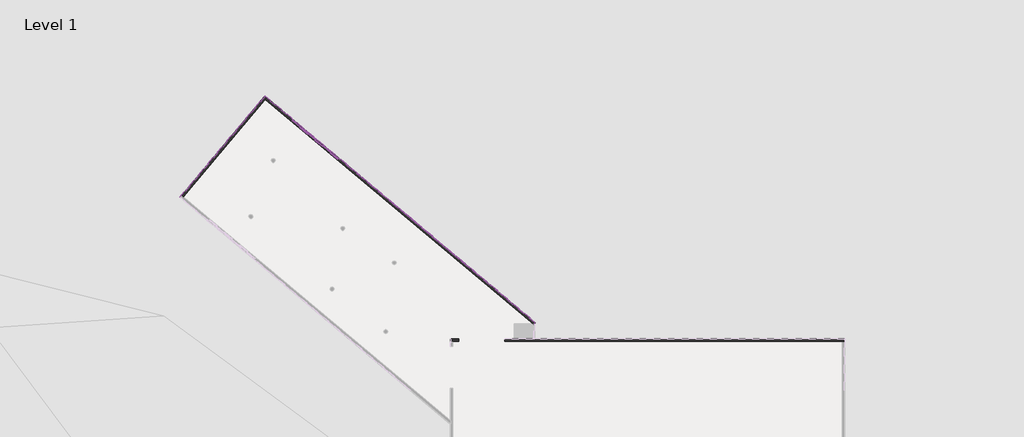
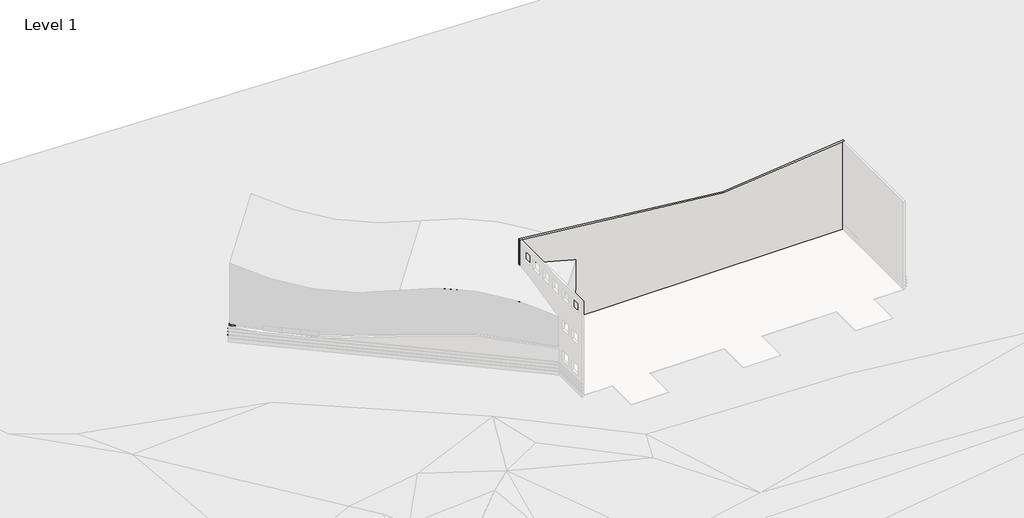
# One storey, part 5 of 6: 6 members, 6 proxies, 3 plates, 3 walls.
"""IFC4 building model written with IfcOpenShell, lengths in millimetres."""

from ifc_helpers import new_model, si_unit, frame, origin, place, context, project, spatial, polyline, circle_curve, outline, extrude, transform, mapped, element, save
from ifc_brep_helpers import plane_surface, cylinder_surface, revolved_surface, advanced_brep
from components import member_1b704979, member_05e2fa80, member_05617f10, member_ef7c23ca, member_8b387e88, member_d205cb55, system_panel_glazed_7171d723, system_panel_glazed_2610bdc1, system_panel_glazed_ed74df88

model = new_model("IFC4")

# Units and contexts
model_context = context("Model", 3, world=origin())
ifc_project = project(units=[si_unit("LENGTHUNIT", "METRE", prefix="MILLI")], contexts=[model_context])

# Site, building, storey
site = spatial("IfcSite", under=ifc_project)
building = spatial("IfcBuilding", under=site)
storey = spatial("IfcBuildingStorey", under=building, Name="Level 1", Elevation=0.0)

# Proxies
placement = place(None, origin())
element("IfcBuildingElementProxy", 1, Name="Reveals", at=placement, inside=storey, context=model_context, shape_type="SweptSolid", body=[
    extrude(outline(polyline([(-46445.5813862, 47903.6855684), (-46434.2325133, 47773.9673571), (-59341.5925172, 32391.5747015), (-59471.3107285, 32380.2258286), (-46445.5813862, 47903.6855684)])), frame((0.0, 0.0, 1625.6), z_axis=(0.0, 0.0, 1.0), x_axis=(1.0, 0.0, 0.0)), (0.0, 0.0, 1.0), 67.7333333),
])
element("IfcBuildingElementProxy", 2, Name="Reveals", at=placement, inside=storey, context=model_context, shape_type="SweptSolid", body=[
    extrude(outline(polyline([(-46445.5813862, 47903.6855684), (-46434.2325133, 47773.9673571), (-59341.5925172, 32391.5747015), (-59471.3107285, 32380.2258286), (-46445.5813862, 47903.6855684)])), frame((0.0, 0.0, 2235.2), z_axis=(0.0, 0.0, 1.0), x_axis=(1.0, 0.0, 0.0)), (0.0, 0.0, 1.0), 67.7333333),
])
element("IfcBuildingElementProxy", 3, Name="Reveals", at=placement, inside=storey, context=model_context, shape_type="SweptSolid", body=[
    extrude(outline(polyline([(-46445.5813862, 47903.6855684), (-46434.2325133, 47773.9673571), (-59341.5925172, 32391.5747015), (-59471.3107285, 32380.2258286), (-46445.5813862, 47903.6855684)])), frame((0.0, 0.0, 2844.8), z_axis=(0.0, 0.0, 1.0), x_axis=(1.0, 0.0, 0.0)), (0.0, 0.0, 1.0), 67.7333333),
])
element("IfcBuildingElementProxy", 4, Name="Reveals", at=placement, inside=storey, context=model_context, shape_type="SweptSolid", body=[
    extrude(outline(polyline([(-5173.5363188, 13272.3277744), (-5232.720988, 13201.7942323), (-46434.2325133, 47773.9673571), (-46445.5813862, 47903.6855684), (-5173.5363188, 13272.3277744)])), frame((0.0, 0.0, 1625.6), z_axis=(0.0, 0.0, 1.0), x_axis=(1.0, 0.0, 0.0)), (0.0, 0.0, 1.0), 67.7333333),
])
element("IfcBuildingElementProxy", 5, Name="Reveals", at=placement, inside=storey, context=model_context, shape_type="SweptSolid", body=[
    extrude(outline(polyline([(-5173.5363188, 13272.3277744), (-5232.720988, 13201.7942323), (-46434.2325133, 47773.9673571), (-46445.5813862, 47903.6855684), (-5173.5363188, 13272.3277744)])), frame((0.0, 0.0, 2235.2), z_axis=(0.0, 0.0, 1.0), x_axis=(1.0, 0.0, 0.0)), (0.0, 0.0, 1.0), 67.7333333),
])
element("IfcBuildingElementProxy", 6, Name="Reveals", at=placement, inside=storey, context=model_context, shape_type="SweptSolid", body=[
    extrude(outline(polyline([(-42842.4327103, 44880.2848433), (-42901.6173795, 44809.7513012), (-46434.2325133, 47773.9673571), (-46445.5813862, 47903.6855684), (-42842.4327103, 44880.2848433)])), frame((0.0, 0.0, 2844.8), z_axis=(0.0, 0.0, 1.0), x_axis=(1.0, 0.0, 0.0)), (0.0, 0.0, 1.0), 67.7333333),
    extrude(outline(polyline([(-5173.5363188, 13272.3277744), (-5232.720988, 13201.7942323), (-34671.1313339, 37903.553496), (-34611.9466648, 37974.0870381), (-5173.5363188, 13272.3277744)])), frame((0.0, 0.0, 2844.8), z_axis=(0.0, 0.0, 1.0), x_axis=(1.0, 0.0, 0.0)), (0.0, 0.0, 1.0), 67.7333333),
])

# Members
member_shape = member_1b704979(model_context)
element("IfcMember", 7, ObjectType="Rectangular Mullion : 1.5\" x 2.5\" rectangular", at=placement, inside=storey, context=model_context, shape_type="MappedRepresentation", body=[
    mapped(member_shape, transform((-5348.7113943, 13077.3819938, 2133.6), x_axis=(0.0, 1.0, 0.0), y_axis=(1.0, 0.0, 0.0), z_axis=(0.0, 0.0, -1.0))),
])
member_2_shape = member_05e2fa80(model_context)
element("IfcMember", 8, ObjectType="Rectangular Mullion : 1.5\" x 2.5\" rectangular", at=placement, inside=storey, context=model_context, shape_type="MappedRepresentation", body=[
    mapped(member_2_shape, transform((-39936.3435125, 42099.8513475, 3999.9444177), x_axis=(0.76604444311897, -0.6427876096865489, 0.0), y_axis=(0.6427876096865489, 0.76604444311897, 0.0), z_axis=(0.0, 0.0, 1.0))),
])
member_3_shape = member_05617f10(model_context)
element("IfcMember", 9, ObjectType="Rectangular Mullion : 1.5\" x 2.5\" rectangular", at=placement, inside=storey, context=model_context, shape_type="MappedRepresentation", body=[
    mapped(member_3_shape, transform((-37601.4400499, 40140.6347131, 3999.9444177), x_axis=(0.76604444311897, -0.6427876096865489, 0.0), y_axis=(0.6427876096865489, 0.76604444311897, 0.0), z_axis=(0.0, 0.0, 1.0))),
])
member_4_shape = member_ef7c23ca(model_context)
element("IfcMember", 10, ObjectType="Rectangular Mullion : 2.5\" x 5\" rectangular", at=placement, inside=storey, context=model_context, shape_type="MappedRepresentation", body=[
    mapped(member_4_shape, transform((-39936.3435125, 42099.8513475, 2976.7419473), x_axis=(-0.028349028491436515, 0.023787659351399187, -0.999315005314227), y_axis=(0.6427876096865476, 0.7660444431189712, 0.0), z_axis=(0.7655197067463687, -0.6423473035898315, -0.03700702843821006))),
])
member_5_shape = member_8b387e88(model_context)
element("IfcMember", 11, ObjectType="Rectangular Mullion : 2.5\" x 5\" rectangular", at=placement, inside=storey, context=model_context, shape_type="MappedRepresentation", body=[
    mapped(member_5_shape, transform((-37601.4400499, 40140.6347131, 2983.2122183), x_axis=(0.0016261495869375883, -0.0013645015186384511, -0.9999977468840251), y_axis=(0.6427876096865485, 0.7660444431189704, 0.0), z_axis=(0.766042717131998, -0.6427861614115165, 0.0021227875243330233))),
])
member_6_shape = member_d205cb55(model_context)
element("IfcMember", 12, ObjectType="Rectangular Mullion : 2.5\" x 5\" rectangular", at=placement, inside=storey, context=model_context, shape_type="MappedRepresentation", body=[
    mapped(member_6_shape, transform((-35266.5365873, 38181.4180788, 3109.0572912), x_axis=(0.03160133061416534, -0.0265166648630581, -0.9991487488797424), y_axis=(0.6427876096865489, 0.76604444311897, 0.0), z_axis=(0.7653923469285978, -0.6422404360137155, 0.04125260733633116))),
])

# Plates
system_panel_glazed_shape = system_panel_glazed_7171d723(model_context)
element("IfcPlate", 13, ObjectType="System Panel : Glazed", at=placement, inside=storey, context=model_context, shape_type="MappedRepresentation", body=[
    mapped(system_panel_glazed_shape, transform((-41103.7952438, 43079.4596646, 3040.9909414), x_axis=(0.76604444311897, -0.6427876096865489, 0.0), y_axis=(0.6427876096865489, 0.76604444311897, 0.0), z_axis=(0.0, 0.0, 1.0))),
])
system_panel_glazed_2_shape = system_panel_glazed_2610bdc1(model_context)
element("IfcPlate", 14, ObjectType="System Panel : Glazed", at=placement, inside=storey, context=model_context, shape_type="MappedRepresentation", body=[
    mapped(system_panel_glazed_2_shape, transform((-38768.8917812, 41120.2430303, 3040.2825296), x_axis=(0.76604444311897, -0.6427876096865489, 0.0), y_axis=(0.6427876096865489, 0.76604444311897, 0.0), z_axis=(0.0, 0.0, 1.0))),
])
system_panel_glazed_3_shape = system_panel_glazed_ed74df88(model_context)
element("IfcPlate", 15, ObjectType="System Panel : Glazed", at=placement, inside=storey, context=model_context, shape_type="MappedRepresentation", body=[
    mapped(system_panel_glazed_3_shape, transform((-36433.9883186, 39161.026396, 3047.5528505), x_axis=(0.76604444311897, -0.6427876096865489, 0.0), y_axis=(0.6427876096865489, 0.76604444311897, 0.0), z_axis=(0.0, 0.0, 1.0))),
])

# Walls
element("IfcWall", 16, ObjectType="Exterior - Brick and CMU on MTL. Stud", at=placement, inside=storey, context=model_context, shape_type="AdvancedBrep", body=[
    advanced_brep(
    [(-16886.5261573, 10382.0370607, 5486.4), (-9876.1261573, 10382.0370607, 5486.4), (-9876.1261573, 10382.0370607, 304.8), (41611.2613427, 10382.0370607, 304.8), (41623.9613427, 10382.0370607, 304.8), (41623.9613427, 10382.0370607, 0.0), (41963.6863427, 10382.0370607, 0.0), (41963.6863427, 10382.0370607, 1016.0), (41871.6113427, 10382.0370607, 1016.0), (41871.6113427, 10382.0370607, 1085.85), (41963.6863427, 10382.0370607, 1085.85), (41963.6863427, 10382.0370607, 1625.6), (41938.2863427, 10382.0370607, 1625.6), (41938.2863427, 10382.0370607, 1693.3333333), (41963.6863427, 10382.0370607, 1693.3333333), (41963.6863427, 10382.0370607, 2235.2), (41938.2863427, 10382.0370607, 2235.2), (41938.2863427, 10382.0370607, 2302.9333333), (41963.6863427, 10382.0370607, 2302.9333333), (41963.6863427, 10382.0370607, 2844.8), (41938.2863427, 10382.0370607, 2844.8), (41938.2863427, 10382.0370607, 2912.5333333), (41963.6863427, 10382.0370607, 2912.5333333), (41963.6863427, 10382.0370607, 17465.9162072), (41611.2613427, 10382.0370607, 17428.8748471), (19653.3535836, 10382.0370607, 15121.0057441), (-17777.1136573, 10382.0370607, 19055.1063791), (-18129.5386573, 10382.0370607, 19092.1477392), (-18129.5386573, 10382.0370607, 3048.0), (-17789.8136573, 10382.0370607, 3048.0), (-17789.8136573, 10382.0370607, 2943.225), (-18129.5386573, 10382.0370607, 2943.225), (-18129.5386573, 10382.0370607, 2912.5333333), (-18104.1386573, 10382.0370607, 2912.5333333), (-18104.1386573, 10382.0370607, 2844.8), (-18129.5386573, 10382.0370607, 2844.8), (-18129.5386573, 10382.0370607, 2302.9333333), (-18104.1386573, 10382.0370607, 2302.9333333), (-18104.1386573, 10382.0370607, 2235.2), (-18129.5386573, 10382.0370607, 2235.2), (-18129.5386573, 10382.0370607, 1693.3333333), (-18104.1386573, 10382.0370607, 1693.3333333), (-18104.1386573, 10382.0370607, 1625.6), (-18129.5386573, 10382.0370607, 1625.6), (-18129.5386573, 10382.0370607, 1085.85), (-18037.4636573, 10382.0370607, 1085.85), (-18037.4636573, 10382.0370607, 1016.0), (-18129.5386573, 10382.0370607, 1016.0), (-18129.5386573, 10382.0370607, 304.8), (-17777.1136573, 10382.0370607, 304.8), (-16886.5261573, 10382.0370607, 304.8), (-16557.0569927, 10382.0370607, 11582.4), (-10638.1261573, 10382.0370607, 11582.4), (-10638.1261573, 10382.0370607, 9144.0), (-16557.0569927, 10382.0370607, 9144.0), (-9876.1261573, 10734.4620607, 5486.4), (-16886.5261573, 10734.4620607, 5486.4), (-16886.5261573, 10734.4620607, 3048.0), (-18129.5386573, 10734.4620607, 3048.0), (-18129.5386573, 10734.4620607, 19092.1477392), (19653.3535836, 10734.4620607, 15121.0057441), (41963.6863427, 10734.4620607, 17465.9162072), (41963.6863427, 10734.4620607, 2912.5333333), (-9876.1261573, 10734.4620607, 2912.5333333), (-9876.1261573, 10734.4620607, 2943.225), (-9763.8622929, 10734.4620607, 2943.225), (-9763.8622929, 10734.4620607, 3048.0), (-9876.1261573, 10734.4620607, 3048.0), (-10638.1261573, 10734.4620607, 11582.4), (-16557.0569927, 10734.4620607, 11582.4), (-16557.0569927, 10734.4620607, 9144.0), (-10638.1261573, 10734.4620607, 9144.0), (41963.6863427, 10734.4620607, 1693.3333333), (-9876.1261573, 10734.4620607, 1693.3333333), (-9876.1261573, 10734.4620607, 2235.2), (41963.6863427, 10734.4620607, 2235.2), (-9876.1261573, 10734.4620607, 1625.6), (41963.6863427, 10734.4620607, 1625.6), (41963.6863427, 10734.4620607, 1085.85), (-9876.1261573, 10734.4620607, 1085.85), (-16886.5261573, 10734.4620607, 1693.3333333), (-18129.5386573, 10734.4620607, 1693.3333333), (-18129.5386573, 10734.4620607, 2235.2), (-16886.5261573, 10734.4620607, 2235.2), (-18129.5386573, 10734.4620607, 1625.6), (-16886.5261573, 10734.4620607, 1625.6), (-16886.5261573, 10734.4620607, 1085.85), (-18129.5386573, 10734.4620607, 1085.85), (41963.6863427, 10734.4620607, 2302.9333333), (-9876.1261573, 10734.4620607, 2302.9333333), (-9876.1261573, 10734.4620607, 2844.8), (41963.6863427, 10734.4620607, 2844.8), (-16886.5261573, 10734.4620607, 2302.9333333), (-18129.5386573, 10734.4620607, 2302.9333333), (-18129.5386573, 10734.4620607, 2844.8), (-16886.5261573, 10734.4620607, 2844.8), (-16886.5261573, 10734.4620607, 2912.5333333), (-18129.5386573, 10734.4620607, 2912.5333333), (-18129.5386573, 10734.4620607, 2943.225), (-16886.5261573, 10734.4620607, 2943.225), (41963.6863427, 10734.4620607, 1016.0), (41963.6863427, 10734.4620607, 0.0), (-5329.6613943, 10734.4620607, 0.0), (-5329.6613943, 10734.4620607, 304.8), (-9876.1261573, 10734.4620607, 304.8), (-9876.1261573, 10734.4620607, 1016.0), (-18129.5386573, 10734.4620607, 1016.0), (-16886.5261573, 10734.4620607, 1016.0), (-16886.5261573, 10734.4620607, 304.8), (-18129.5386573, 10734.4620607, 304.8), (41963.6863427, 10642.3870607, 0.0), (-16886.5261573, 10642.3870607, 1016.0), (-16886.5261573, 10642.3870607, 1085.85), (-16886.5261573, 10709.0620607, 1625.6), (-16886.5261573, 10709.0620607, 1693.3333333), (-16886.5261573, 10709.0620607, 2235.2), (-16886.5261573, 10709.0620607, 2302.9333333), (-16886.5261573, 10709.0620607, 2844.8), (-16886.5261573, 10709.0620607, 2912.5333333), (-16886.5261573, 10394.7370607, 2943.225), (-16886.5261573, 10394.7370607, 3048.0), (-9876.1261573, 10394.7370607, 3048.0), (-9876.1261573, 10394.7370607, 2943.225), (-9876.1261573, 10709.0620607, 2912.5333333), (-9876.1261573, 10709.0620607, 2844.8), (-9876.1261573, 10709.0620607, 2302.9333333), (-9876.1261573, 10709.0620607, 2235.2), (-9876.1261573, 10709.0620607, 1693.3333333), (-9876.1261573, 10709.0620607, 1625.6), (-9876.1261573, 10642.3870607, 1085.85), (-9876.1261573, 10642.3870607, 1016.0), (41623.9613427, 10394.7370607, 0.0), (-5329.6613943, 10394.7370607, 0.0), (-5329.6613943, 10642.3870607, 0.0), (-18104.1386573, 10709.0620607, 1693.3333333), (-18104.1386573, 10709.0620607, 1625.6), (41938.2863427, 10709.0620607, 1693.3333333), (41938.2863427, 10709.0620607, 1625.6), (-18104.1386573, 10709.0620607, 2302.9333333), (-18104.1386573, 10709.0620607, 2235.2), (41938.2863427, 10709.0620607, 2302.9333333), (41938.2863427, 10709.0620607, 2235.2), (-18104.1386573, 10709.0620607, 2912.5333333), (-18104.1386573, 10709.0620607, 2844.8), (41938.2863427, 10709.0620607, 2912.5333333), (41938.2863427, 10709.0620607, 2844.8), (-18037.4636573, 10642.3870607, 1085.85), (-18037.4636573, 10642.3870607, 1016.0), (41871.6113427, 10642.3870607, 1085.85), (41871.6113427, 10642.3870607, 1016.0), (-9723.7261573, 10394.7370607, 2943.225), (-17789.8136573, 10394.7370607, 2943.225), (-17789.8136573, 10394.7370607, 3048.0), (-9723.7261573, 10394.7370607, 3048.0), (-5329.6613943, 10394.7370607, 304.8), (41623.9613427, 10394.7370607, 304.8)],
    [
        (0, 1),
        (1, 2),
        (2, 3),
        (3, 4),
        (4, 5),
        (5, 6),
        (6, 7),
        (7, 8),
        (8, 9),
        (9, 10),
        (10, 11),
        (11, 12),
        (12, 13),
        (13, 14),
        (14, 15),
        (15, 16),
        (16, 17),
        (17, 18),
        (18, 19),
        (19, 20),
        (20, 21),
        (21, 22),
        (22, 23),
        (23, 24),
        (24, 25),
        (25, 26),
        (26, 27),
        (27, 28),
        (28, 29),
        (29, 30),
        (30, 31),
        (31, 32),
        (32, 33),
        (33, 34),
        (34, 35),
        (35, 36),
        (36, 37),
        (37, 38),
        (38, 39),
        (39, 40),
        (40, 41),
        (41, 42),
        (42, 43),
        (43, 44),
        (44, 45),
        (45, 46),
        (46, 47),
        (47, 48),
        (48, 49),
        (49, 50),
        (50, 0),
        (51, 52),
        (52, 53),
        (53, 54),
        (54, 51),
        (55, 56),
        (56, 57),
        (57, 58),
        (58, 59),
        (59, 60),
        (60, 61),
        (61, 62),
        (62, 63),
        (63, 64),
        (64, 65),
        (65, 66),
        (66, 67),
        (67, 55),
        (68, 69),
        (69, 70),
        (70, 71),
        (71, 68),
        (72, 73),
        (73, 74),
        (74, 75),
        (75, 72),
        (76, 77),
        (77, 78),
        (78, 79),
        (79, 76),
        (80, 81),
        (81, 82),
        (82, 83),
        (83, 80),
        (84, 85),
        (85, 86),
        (86, 87),
        (87, 84),
        (88, 89),
        (89, 90),
        (90, 91),
        (91, 88),
        (92, 93),
        (93, 94),
        (94, 95),
        (95, 92),
        (96, 97),
        (97, 98),
        (98, 99),
        (99, 96),
        (100, 101),
        (101, 102),
        (102, 103),
        (103, 104),
        (104, 105),
        (105, 100),
        (106, 107),
        (107, 108),
        (108, 109),
        (109, 106),
        (27, 59),
        (58, 28),
        (81, 40),
        (39, 82),
        (43, 84),
        (87, 44),
        (93, 36),
        (35, 94),
        (97, 32),
        (31, 98),
        (47, 106),
        (109, 48),
        (61, 23),
        (22, 62),
        (6, 110),
        (110, 101),
        (100, 7),
        (14, 72),
        (75, 15),
        (77, 11),
        (10, 78),
        (18, 88),
        (91, 19),
        (0, 56),
        (55, 1),
        (50, 108),
        (107, 111),
        (111, 112),
        (112, 86),
        (85, 113),
        (113, 114),
        (114, 80),
        (83, 115),
        (115, 116),
        (116, 92),
        (95, 117),
        (117, 118),
        (118, 96),
        (99, 119),
        (119, 120),
        (120, 57),
        (67, 121),
        (121, 122),
        (122, 64),
        (63, 123),
        (123, 124),
        (124, 90),
        (89, 125),
        (125, 126),
        (126, 74),
        (73, 127),
        (127, 128),
        (128, 76),
        (79, 129),
        (129, 130),
        (130, 105),
        (104, 2),
        (5, 131),
        (131, 132),
        (132, 133),
        (133, 110),
        (133, 102),
        (25, 60),
        (51, 69),
        (68, 52),
        (53, 71),
        (70, 54),
        (114, 134),
        (134, 41),
        (135, 113),
        (42, 135),
        (134, 135),
        (136, 127),
        (13, 136),
        (128, 137),
        (137, 12),
        (136, 137),
        (116, 138),
        (138, 37),
        (139, 115),
        (38, 139),
        (138, 139),
        (140, 125),
        (17, 140),
        (126, 141),
        (141, 16),
        (140, 141),
        (118, 142),
        (142, 33),
        (143, 117),
        (34, 143),
        (142, 143),
        (144, 123),
        (21, 144),
        (124, 145),
        (145, 20),
        (144, 145),
        (112, 146),
        (146, 45),
        (147, 111),
        (46, 147),
        (146, 147),
        (148, 129),
        (9, 148),
        (130, 149),
        (149, 8),
        (148, 149),
        (150, 65, circle_curve(frame((-16606.4056585, 9753.8299598, 2943.225), z_axis=(0.0, 0.0, 1.0), x_axis=(1.0, 0.0, 0.0)), 6912.4553545)),
        (122, 150),
        (30, 151),
        (151, 119),
        (120, 152),
        (152, 29),
        (153, 121),
        (66, 153, circle_curve(frame((-16606.4056585, 9753.8299598, 3048.0), z_axis=(0.0, 0.0, -1.0), x_axis=(1.0, 0.0, 0.0)), 6912.4553545)),
        (153, 150),
        (151, 152),
        (154, 155),
        (155, 4),
        (103, 154),
        (155, 131),
        (132, 154),
    ],
    [
        plane_surface(frame((-17953.3261573, 10382.0370607, 0.0), z_axis=(0.0, -1.0, 0.0), x_axis=(1.0, 0.0, 0.0))),
        plane_surface(frame((-17953.3261573, 10734.4620607, 0.0), z_axis=(0.0, 1.0, 0.0), x_axis=(-1.0, 0.0, 0.0))),
        plane_surface(frame((-18129.5386573, 10070.7162579, 0.0), z_axis=(-1.0, 0.0, 0.0), x_axis=(0.0, -1.0, 0.0))),
        plane_surface(frame((41963.6863427, 10613.2316488, 0.0), z_axis=(1.0, 0.0, 0.0), x_axis=(0.0, 1.0, 0.0))),
        plane_surface(frame((-16886.5261573, 10734.4620607, 5486.4), z_axis=(0.0, 0.0, -1.0), x_axis=(-1.0, 0.0, 0.0))),
        plane_surface(frame((-16886.5261573, 10734.4620607, 5486.4), z_axis=(1.0, 0.0, 0.0), x_axis=(0.0, 0.0, -1.0))),
        plane_surface(frame((-9876.1261573, 10382.0370607, 5486.4), z_axis=(-1.0, 0.0, 0.0), x_axis=(0.0, 0.0, -1.0))),
        plane_surface(frame((-17953.3261573, 10382.0370607, 0.0), z_axis=(0.0, 0.0, -1.0), x_axis=(0.0, 1.0, 0.0))),
        plane_surface(frame((0.0, 0.0, 0.0), z_axis=(0.0, 0.0, -1.0), x_axis=(1.0, 0.0, 0.0))),
        plane_surface(frame((19653.3535836, 11867.9370607, 15121.0057441), z_axis=(0.1045284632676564, 0.0, 0.9945218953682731), x_axis=(0.0, -1.0, 0.0))),
        plane_surface(frame((45116.2965751, 11867.9370607, 17797.2688948), z_axis=(-0.10452846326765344, 0.0, 0.9945218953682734), x_axis=(0.0, -1.0, 0.0))),
        plane_surface(frame((-16557.0569927, 10734.4620607, 11582.4), z_axis=(0.0, 0.0, -1.0), x_axis=(-1.0, 0.0, 0.0))),
        plane_surface(frame((-16557.0569927, 10734.4620607, 9144.0), z_axis=(0.0, 0.0, 1.0), x_axis=(1.0, 0.0, 0.0))),
        plane_surface(frame((-16557.0569927, 10734.4620607, 11582.4), z_axis=(1.0, 0.0, 0.0), x_axis=(0.0, 0.0, -1.0))),
        plane_surface(frame((-10638.1261573, 10382.0370607, 11582.4), z_axis=(-1.0, 0.0, 0.0), x_axis=(0.0, 0.0, -1.0))),
        plane_surface(frame((-18104.1386573, 9643.8495607, 1693.3333333), z_axis=(0.0, 0.0, -1.0), x_axis=(0.0, 1.0, 0.0))),
        plane_surface(frame((-18196.2136573, 9643.8495607, 1625.6), z_axis=(0.0, 0.0, 1.0), x_axis=(0.0, 1.0, 0.0))),
        plane_surface(frame((-18104.1386573, 9643.8495607, 1625.6), z_axis=(-1.0, 0.0, 0.0), x_axis=(0.0, 1.0, 0.0))),
        plane_surface(frame((-18104.1386573, 10709.0620607, 1625.6), z_axis=(0.0, 1.0, 0.0), x_axis=(1.0, 0.0, 0.0))),
        plane_surface(frame((-9876.1261573, 10709.0620607, 1693.3333333), z_axis=(0.0, 0.0, -1.0), x_axis=(1.0, 0.0, 0.0))),
        plane_surface(frame((-9876.1261573, 10801.1370607, 1625.6), z_axis=(0.0, 0.0, 1.0), x_axis=(1.0, 0.0, 0.0))),
        plane_surface(frame((-9876.1261573, 10709.0620607, 1625.6), z_axis=(0.0, 1.0, 0.0), x_axis=(1.0, 0.0, 0.0))),
        plane_surface(frame((41938.2863427, 10709.0620607, 1625.6), z_axis=(1.0, 0.0, 0.0), x_axis=(0.0, -1.0, 0.0))),
        plane_surface(frame((-18104.1386573, 9643.8495607, 2302.9333333), z_axis=(0.0, 0.0, -1.0), x_axis=(0.0, 1.0, 0.0))),
        plane_surface(frame((-18196.2136573, 9643.8495607, 2235.2), z_axis=(0.0, 0.0, 1.0), x_axis=(0.0, 1.0, 0.0))),
        plane_surface(frame((-18104.1386573, 9643.8495607, 2235.2), z_axis=(-1.0, 0.0, 0.0), x_axis=(0.0, 1.0, 0.0))),
        plane_surface(frame((-18104.1386573, 10709.0620607, 2235.2), z_axis=(0.0, 1.0, 0.0), x_axis=(1.0, 0.0, 0.0))),
        plane_surface(frame((-9876.1261573, 10709.0620607, 2302.9333333), z_axis=(0.0, 0.0, -1.0), x_axis=(1.0, 0.0, 0.0))),
        plane_surface(frame((-9876.1261573, 10801.1370607, 2235.2), z_axis=(0.0, 0.0, 1.0), x_axis=(1.0, 0.0, 0.0))),
        plane_surface(frame((-9876.1261573, 10709.0620607, 2235.2), z_axis=(0.0, 1.0, 0.0), x_axis=(1.0, 0.0, 0.0))),
        plane_surface(frame((41938.2863427, 10709.0620607, 2235.2), z_axis=(1.0, 0.0, 0.0), x_axis=(0.0, -1.0, 0.0))),
        plane_surface(frame((-18104.1386573, 9643.8495607, 2912.5333333), z_axis=(0.0, 0.0, -1.0), x_axis=(0.0, 1.0, 0.0))),
        plane_surface(frame((-18196.2136573, 9643.8495607, 2844.8), z_axis=(0.0, 0.0, 1.0), x_axis=(0.0, 1.0, 0.0))),
        plane_surface(frame((-18104.1386573, 9643.8495607, 2844.8), z_axis=(-1.0, 0.0, 0.0), x_axis=(0.0, 1.0, 0.0))),
        plane_surface(frame((-18104.1386573, 10709.0620607, 2844.8), z_axis=(0.0, 1.0, 0.0), x_axis=(1.0, 0.0, 0.0))),
        plane_surface(frame((-9876.1261573, 10709.0620607, 2912.5333333), z_axis=(0.0, 0.0, -1.0), x_axis=(1.0, 0.0, 0.0))),
        plane_surface(frame((-9876.1261573, 10801.1370607, 2844.8), z_axis=(0.0, 0.0, 1.0), x_axis=(1.0, 0.0, 0.0))),
        plane_surface(frame((-9876.1261573, 10709.0620607, 2844.8), z_axis=(0.0, 1.0, 0.0), x_axis=(1.0, 0.0, 0.0))),
        plane_surface(frame((41938.2863427, 10709.0620607, 2844.8), z_axis=(1.0, 0.0, 0.0), x_axis=(0.0, -1.0, 0.0))),
        plane_surface(frame((-18037.4636573, 9643.8495607, 1085.85), z_axis=(0.0, 0.0, -1.0), x_axis=(0.0, 1.0, 0.0))),
        plane_surface(frame((-18164.4636573, 9643.8495607, 1016.0), z_axis=(0.0, 0.0, 1.0), x_axis=(0.0, 1.0, 0.0))),
        plane_surface(frame((-18037.4636573, 9643.8495607, 1016.0), z_axis=(-1.0, 0.0, 0.0), x_axis=(0.0, 1.0, 0.0))),
        plane_surface(frame((-18037.4636573, 10642.3870607, 1016.0), z_axis=(0.0, 1.0, 0.0), x_axis=(1.0, 0.0, 0.0))),
        plane_surface(frame((-9876.1261573, 10642.3870607, 1085.85), z_axis=(0.0, 0.0, -1.0), x_axis=(1.0, 0.0, 0.0))),
        plane_surface(frame((-9876.1261573, 10769.3870607, 1016.0), z_axis=(0.0, 0.0, 1.0), x_axis=(1.0, 0.0, 0.0))),
        plane_surface(frame((-9876.1261573, 10642.3870607, 1016.0), z_axis=(0.0, 1.0, 0.0), x_axis=(1.0, 0.0, 0.0))),
        plane_surface(frame((41871.6113427, 10642.3870607, 1016.0), z_axis=(1.0, 0.0, 0.0), x_axis=(0.0, -1.0, 0.0))),
        plane_surface(frame((-17789.8136573, 10394.7370607, 2943.225), z_axis=(0.0, 0.0, 1.0), x_axis=(-1.0, 0.0, 0.0))),
        plane_surface(frame((-17789.8136573, 10394.7370607, 3048.0), z_axis=(0.0, 0.0, -1.0), x_axis=(1.0, 0.0, 0.0))),
        plane_surface(frame((-9723.7261573, 10394.7370607, 2943.225), z_axis=(0.0, 1.0, 0.0), x_axis=(0.0, 0.0, 1.0))),
        plane_surface(frame((-17789.8136573, 10394.7370607, 2943.225), z_axis=(-1.0, 0.0, 0.0), x_axis=(0.0, 0.0, 1.0))),
        revolved_surface(polyline([(-9693.950304, 9753.8299598, 2943.225), (-9693.950304, 9753.8299598, 3048.0)]), (-16606.4056585, 9753.8299598, 3048.0), (0.0, 0.0, -1.0)),
        plane_surface(frame((41623.9613427, 10558.2495607, 304.8), z_axis=(0.0, 0.0, -1.0), x_axis=(0.0, 1.0, 0.0))),
        plane_surface(frame((41623.9613427, 10394.7370607, 0.0), z_axis=(-1.0, 0.0, 0.0), x_axis=(0.0, 0.0, 1.0))),
        plane_surface(frame((-5329.6613943, 13086.2651547, 0.0), z_axis=(-1.0, 0.0, 0.0), x_axis=(0.0, 0.0, 1.0))),
        plane_surface(frame((-5329.6613943, 10394.7370607, 0.0), z_axis=(0.0, -1.0, 0.0), x_axis=(0.0, 0.0, 1.0))),
    ],
    [
        (0, [[1, 2, 3, 4, 5, 6, 7, 8, 9, 10, 11, 12, 13, 14, 15, 16, 17, 18, 19, 20, 21, 22, 23, 24, 25, 26, 27, 28, 29, 30, 31, 32, 33, 34, 35, 36, 37, 38, 39, 40, 41, 42, 43, 44, 45, 46, 47, 48, 49, 50, 51], [52, 53, 54, 55]]),
        (1, [[56, 57, 58, 59, 60, 61, 62, 63, 64, 65, 66, 67, 68], [69, 70, 71, 72]]),
        (1, [[73, 74, 75, 76]]),
        (1, [[77, 78, 79, 80]]),
        (1, [[81, 82, 83, 84]]),
        (1, [[85, 86, 87, 88]]),
        (1, [[89, 90, 91, 92]]),
        (1, [[93, 94, 95, 96]]),
        (1, [[97, 98, 99, 100]]),
        (1, [[101, 102, 103, 104, 105, 106]]),
        (1, [[107, 108, 109, 110]]),
        (2, [[111, -59, 112, -28]]),
        (2, [[113, -40, 114, -82]]),
        (2, [[115, -88, 116, -44]]),
        (2, [[117, -36, 118, -94]]),
        (2, [[119, -32, 120, -98]]),
        (2, [[121, -110, 122, -48]]),
        (3, [[123, -23, 124, -62]]),
        (3, [[125, 126, -101, 127, -7]]),
        (3, [[128, -76, 129, -15]]),
        (3, [[130, -11, 131, -78]]),
        (3, [[132, -92, 133, -19]]),
        (4, [[134, -56, 135, -1]]),
        (5, [[-134, -51, 136, -108, 137, 138, 139, -86, 140, 141, 142, -84, 143, 144, 145, -96, 146, 147, 148, -100, 149, 150, 151, -57]]),
        (6, [[-135, -68, 152, 153, 154, -64, 155, 156, 157, -90, 158, 159, 160, -74, 161, 162, 163, -80, 164, 165, 166, -105, 167, -2]]),
        (7, [[-125, -6, 168, 169, 170, 171]]),
        (8, [[-126, -171, 172, -102]]),
        (9, [[-111, -27, -26, 173, -60]]),
        (10, [[-123, -61, -173, -25, -24]]),
        (11, [[174, -69, 175, -52]]),
        (12, [[176, -71, 177, -54]]),
        (13, [[-174, -55, -177, -70]]),
        (14, [[-175, -72, -176, -53]]),
        (15, [[178, 179, -41, -113, -81, -142]]),
        (16, [[180, -140, -85, -115, -43, 181]]),
        (17, [[182, -181, -42, -179]]),
        (18, [[-178, -141, -180, -182]]),
        (19, [[183, -161, -73, -128, -14, 184]]),
        (20, [[185, 186, -12, -130, -77, -163]]),
        (21, [[-183, 187, -185, -162]]),
        (22, [[-187, -184, -13, -186]]),
        (23, [[188, 189, -37, -117, -93, -145]]),
        (24, [[190, -143, -83, -114, -39, 191]]),
        (25, [[192, -191, -38, -189]]),
        (26, [[-188, -144, -190, -192]]),
        (27, [[193, -158, -89, -132, -18, 194]]),
        (28, [[195, 196, -16, -129, -75, -160]]),
        (29, [[-193, 197, -195, -159]]),
        (30, [[-197, -194, -17, -196]]),
        (31, [[198, 199, -33, -119, -97, -148]]),
        (32, [[200, -146, -95, -118, -35, 201]]),
        (33, [[202, -201, -34, -199]]),
        (34, [[-198, -147, -200, -202]]),
        (35, [[203, -155, -63, -124, -22, 204]]),
        (36, [[205, 206, -20, -133, -91, -157]]),
        (37, [[-203, 207, -205, -156]]),
        (38, [[-207, -204, -21, -206]]),
        (39, [[208, 209, -45, -116, -87, -139]]),
        (40, [[210, -137, -107, -121, -47, 211]]),
        (41, [[212, -211, -46, -209]]),
        (42, [[-208, -138, -210, -212]]),
        (43, [[213, -164, -79, -131, -10, 214]]),
        (44, [[215, 216, -8, -127, -106, -166]]),
        (45, [[-213, 217, -215, -165]]),
        (46, [[-217, -214, -9, -216]]),
        (47, [[218, -65, -154, 219]]),
        (47, [[220, 221, -149, -99, -120, -31]]),
        (48, [[222, 223, -29, -112, -58, -151]]),
        (48, [[224, -152, -67, 225]]),
        (49, [[226, -219, -153, -224]]),
        (49, [[227, -222, -150, -221]]),
        (50, [[-227, -220, -30, -223]]),
        (51, [[-226, -225, -66, -218]]),
        (52, [[228, 229, -4, -3, -167, -104, 230]]),
        (52, [[-50, -49, -122, -109, -136]]),
        (53, [[231, -168, -5, -229]]),
        (54, [[232, -230, -103, -172, -170]]),
        (55, [[-228, -232, -169, -231]]),
    ],
),
])
element("IfcWall", 17, ObjectType="Exterior - Brick and CMU on MTL. Stud", at=placement, inside=storey, context=model_context, shape_type="AdvancedBrep", body=[
    advanced_brep(
    [(-59150.842428, 32658.4171908, 3303.154665), (-46437.3632369, 47809.7516913, 3303.154665), (-46437.3632369, 47809.7516913, 2912.5333333), (-59150.842428, 32658.4171908, 2912.5333333), (-46437.3632369, 47809.7516913, 0.0), (-59150.842428, 32658.4171908, 0.0), (-59150.842428, 32658.4171908, 1016.0), (-46437.3632369, 47809.7516913, 1016.0), (-46437.3632369, 47809.7516913, 1693.3333333), (-59150.842428, 32658.4171908, 1693.3333333), (-59150.842428, 32658.4171908, 2235.2), (-46437.3632369, 47809.7516913, 2235.2), (-59150.842428, 32658.4171908, 1625.6), (-46437.3632369, 47809.7516913, 1625.6), (-46437.3632369, 47809.7516913, 1085.85), (-59150.842428, 32658.4171908, 1085.85), (-46437.3632369, 47809.7516913, 2302.9333333), (-59150.842428, 32658.4171908, 2302.9333333), (-59150.842428, 32658.4171908, 2844.8), (-46437.3632369, 47809.7516913, 2844.8), (-58880.8692152, 32431.8827675, 0.0), (-46393.9244473, 47313.2440551, 0.0), (-46167.390024, 47583.2172679, 0.0), (-46167.390024, 47583.2172679, 1016.0), (-46226.5746932, 47512.6837258, 1016.0), (-46226.5746932, 47512.6837258, 1085.85), (-46167.390024, 47583.2172679, 1085.85), (-46167.390024, 47583.2172679, 1625.6), (-46183.7168293, 47563.7597391, 1625.6), (-46183.7168293, 47563.7597391, 1693.3333333), (-46167.390024, 47583.2172679, 1693.3333333), (-46167.390024, 47583.2172679, 2235.2), (-46183.7168293, 47563.7597391, 2235.2), (-46183.7168293, 47563.7597391, 2302.9333333), (-46167.390024, 47583.2172679, 2302.9333333), (-46167.390024, 47583.2172679, 2844.8), (-46183.7168293, 47563.7597391, 2844.8), (-46183.7168293, 47563.7597391, 2912.5333333), (-46167.390024, 47583.2172679, 2912.5333333), (-46167.390024, 47583.2172679, 3258.4949084), (-46393.9244473, 47313.2440551, 3258.4949084), (-58880.8692152, 32431.8827675, 3258.4949084), (-46366.8296948, 47750.5670221, 0.0), (-59131.3848992, 32642.0903855, 2912.5333333), (-59131.3848992, 32642.0903855, 2844.8), (-59131.3848992, 32642.0903855, 2302.9333333), (-59131.3848992, 32642.0903855, 2235.2), (-59131.3848992, 32642.0903855, 1693.3333333), (-59131.3848992, 32642.0903855, 1625.6), (-59080.3088859, 32599.2325217, 1085.85), (-59080.3088859, 32599.2325217, 1016.0), (-59080.3088859, 32599.2325217, 0.0), (-46434.2325133, 47773.9673571, 1625.6), (-46434.2325133, 47773.9673571, 1693.3333333), (-46434.2325133, 47773.9673571, 2235.2), (-46434.2325133, 47773.9673571, 2302.9333333), (-46434.2325133, 47773.9673571, 2844.8), (-46434.2325133, 47773.9673571, 2912.5333333), (-46426.0143639, 47680.03348, 1016.0), (-46426.0143639, 47680.03348, 1085.85)],
    [
        (0, 1),
        (1, 2),
        (2, 3),
        (3, 0),
        (4, 5),
        (5, 6),
        (6, 7),
        (7, 4),
        (8, 9),
        (9, 10),
        (10, 11),
        (11, 8),
        (12, 13),
        (13, 14),
        (14, 15),
        (15, 12),
        (16, 17),
        (17, 18),
        (18, 19),
        (19, 16),
        (20, 21),
        (21, 22),
        (22, 23),
        (23, 24),
        (24, 25),
        (25, 26),
        (26, 27),
        (27, 28),
        (28, 29),
        (29, 30),
        (30, 31),
        (31, 32),
        (32, 33),
        (33, 34),
        (34, 35),
        (35, 36),
        (36, 37),
        (37, 38),
        (38, 39),
        (39, 40),
        (40, 41),
        (41, 20),
        (1, 39, circle_curve(frame((-38770.0475514, 41376.1099275, 80874.3843597), z_axis=(-0.6427876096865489, -0.76604444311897, 0.0), x_axis=(0.76604444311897, -0.6427876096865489, 0.0)), 78214.2899509)),
        (38, 2),
        (22, 42),
        (42, 4),
        (7, 23),
        (30, 8),
        (11, 31),
        (13, 27),
        (26, 14),
        (34, 16),
        (19, 35),
        (41, 0, circle_curve(frame((-51483.5267426, 26224.775427, 80874.3843597), z_axis=(0.6427876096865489, 0.76604444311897, 0.0), x_axis=(0.76604444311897, -0.6427876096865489, 0.0)), 78214.2899509)),
        (3, 43),
        (43, 44),
        (44, 18),
        (17, 45),
        (45, 46),
        (46, 10),
        (9, 47),
        (47, 48),
        (48, 12),
        (15, 49),
        (49, 50),
        (50, 6),
        (5, 51),
        (51, 20),
        (51, 42),
        (52, 53),
        (53, 29),
        (28, 52),
        (48, 52),
        (53, 47),
        (54, 55),
        (55, 33),
        (32, 54),
        (46, 54),
        (55, 45),
        (56, 57),
        (57, 37),
        (36, 56),
        (44, 56),
        (57, 43),
        (58, 59),
        (59, 25),
        (24, 58),
        (50, 58),
        (59, 49),
    ],
    [
        plane_surface(frame((-46550.6304485, 47674.7650848, 0.0), z_axis=(-0.76604444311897, 0.642787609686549, 0.0), x_axis=(-0.642787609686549, -0.76604444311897, 0.0))),
        plane_surface(frame((-46280.6572357, 47448.2306615, 0.0), z_axis=(0.76604444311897, -0.642787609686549, 0.0), x_axis=(0.642787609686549, 0.76604444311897, 0.0))),
        plane_surface(frame((-5216.3941827, 13221.2517611, 0.0), z_axis=(0.6427876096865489, 0.76604444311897, 0.0), x_axis=(-0.76604444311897, 0.6427876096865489, 0.0))),
        plane_surface(frame((-59015.8558216, 32545.1499792, 0.0), z_axis=(-0.642787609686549, -0.76604444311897, 0.0), x_axis=(-0.76604444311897, 0.642787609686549, 0.0))),
        revolved_surface(polyline([(8432.095446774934, -24050.401053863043, 80874.3843597), (21145.57463798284, -8899.066553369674, 80874.3843597)]), (-38770.0475514, 41376.1099275, 80874.3843597), (-0.6427876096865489, -0.76604444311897, 0.0)),
        plane_surface(frame((-46550.6304485, 47674.7650848, 0.0), z_axis=(0.0, 0.0, -1.0), x_axis=(0.7660444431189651, -0.6427876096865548, 0.0))),
        plane_surface(frame((0.0, 0.0, 0.0), z_axis=(0.0, 0.0, -1.0), x_axis=(1.0, 0.0, 0.0))),
        plane_surface(frame((-5232.720988, 13201.7942323, 1693.3333333), z_axis=(0.6427876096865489, 0.76604444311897, 0.0), x_axis=(-0.76604444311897, 0.6427876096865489, 0.0))),
        plane_surface(frame((-5232.720988, 13201.7942323, 1625.6), z_axis=(0.0, 0.0, 1.0), x_axis=(-0.76604444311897, 0.6427876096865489, 0.0))),
        plane_surface(frame((-5173.5363188, 13272.3277744, 1693.3333333), z_axis=(0.0, 0.0, -1.0), x_axis=(-0.76604444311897, 0.6427876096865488, 0.0))),
        plane_surface(frame((-46434.2325133, 47773.9673571, 1693.3333333), z_axis=(-0.7660444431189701, 0.6427876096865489, 0.0), x_axis=(-0.6427876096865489, -0.7660444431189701, 0.0))),
        plane_surface(frame((-5232.720988, 13201.7942323, 2302.9333333), z_axis=(0.6427876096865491, 0.7660444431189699, 0.0), x_axis=(-0.7660444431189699, 0.6427876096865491, 0.0))),
        plane_surface(frame((-5232.720988, 13201.7942323, 2235.2), z_axis=(0.0, 0.0, 1.0), x_axis=(-0.7660444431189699, 0.642787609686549, 0.0))),
        plane_surface(frame((-5173.5363188, 13272.3277744, 2302.9333333), z_axis=(0.0, 0.0, -1.0000000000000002), x_axis=(-0.76604444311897, 0.642787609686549, 0.0))),
        plane_surface(frame((-46434.2325133, 47773.9673571, 2302.9333333), z_axis=(-0.76604444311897, 0.6427876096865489, 0.0), x_axis=(-0.6427876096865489, -0.76604444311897, 0.0))),
        plane_surface(frame((-42901.6173795, 44809.7513012, 2912.5333333), z_axis=(0.64278760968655, 0.7660444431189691, 0.0), x_axis=(-0.7660444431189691, 0.64278760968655, 0.0))),
        plane_surface(frame((-42901.6173795, 44809.7513012, 2844.8), z_axis=(0.0, 0.0, 1.0), x_axis=(-0.76604444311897, 0.6427876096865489, 0.0))),
        plane_surface(frame((-42842.4327103, 44880.2848433, 2912.5333333), z_axis=(0.0, 0.0, -1.0), x_axis=(-0.7660444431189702, 0.6427876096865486, 0.0))),
        plane_surface(frame((-46434.2325133, 47773.9673571, 2912.5333333), z_axis=(-0.76604444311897, 0.6427876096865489, 0.0), x_axis=(-0.6427876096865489, -0.76604444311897, 0.0))),
        plane_surface(frame((-5275.5788518, 13150.718219, 1085.85), z_axis=(0.642787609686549, 0.7660444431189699, 0.0), x_axis=(-0.7660444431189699, 0.642787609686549, 0.0))),
        plane_surface(frame((-5275.5788518, 13150.718219, 1016.0), z_axis=(0.0, 0.0, 1.0), x_axis=(-0.7660444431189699, 0.642787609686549, 0.0))),
        plane_surface(frame((-5216.3941827, 13221.2517611, 1085.85), z_axis=(0.0, 0.0, -1.0), x_axis=(-0.7660444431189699, 0.642787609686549, 0.0))),
        plane_surface(frame((-46426.0143639, 47680.03348, 1085.85), z_axis=(-0.76604444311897, 0.642787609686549, 0.0), x_axis=(-0.642787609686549, -0.76604444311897, 0.0))),
    ],
    [
        (0, [[1, 2, 3, 4]]),
        (0, [[5, 6, 7, 8]]),
        (0, [[9, 10, 11, 12]]),
        (0, [[13, 14, 15, 16]]),
        (0, [[17, 18, 19, 20]]),
        (1, [[21, 22, 23, 24, 25, 26, 27, 28, 29, 30, 31, 32, 33, 34, 35, 36, 37, 38, 39, 40, 41, 42]]),
        (2, [[43, -39, 44, -2]]),
        (2, [[45, 46, -8, 47, -23]]),
        (2, [[48, -12, 49, -31]]),
        (2, [[50, -27, 51, -14]]),
        (2, [[52, -20, 53, -35]]),
        (3, [[-42, 54, -4, 55, 56, 57, -18, 58, 59, 60, -10, 61, 62, 63, -16, 64, 65, 66, -6, 67, 68]]),
        (4, [[-1, -54, -41, -40, -43]]),
        (5, [[-22, -21, -68, 69, -45]]),
        (6, [[-5, -46, -69, -67]]),
        (7, [[70, 71, -29, 72]]),
        (8, [[73, -72, -28, -50, -13, -63]]),
        (9, [[74, -61, -9, -48, -30, -71]]),
        (10, [[-70, -73, -62, -74]]),
        (11, [[75, 76, -33, 77]]),
        (12, [[78, -77, -32, -49, -11, -60]]),
        (13, [[79, -58, -17, -52, -34, -76]]),
        (14, [[-75, -78, -59, -79]]),
        (15, [[80, 81, -37, 82]]),
        (16, [[83, -82, -36, -53, -19, -57]]),
        (17, [[84, -55, -3, -44, -38, -81]]),
        (18, [[-80, -83, -56, -84]]),
        (19, [[85, 86, -25, 87]]),
        (20, [[88, -87, -24, -47, -7, -66]]),
        (21, [[89, -64, -15, -51, -26, -86]]),
        (22, [[-85, -88, -65, -89]]),
    ],
),
])
element("IfcWall", 18, ObjectType="Exterior - Brick and CMU on MTL. Stud", at=placement, inside=storey, context=model_context, shape_type="AdvancedBrep", body=[
    advanced_brep(
    [(-25527.8059409, 30264.5498761, 4594.2989975), (-5216.3941827, 13221.2517611, 5443.8010671), (-5216.3941827, 13221.2517611, 2912.5333333), (-33960.1096343, 37340.0927953, 2912.5333333), (-5216.3941827, 13221.2517611, 0.0), (-46167.390024, 47583.2172679, 0.0), (-46167.390024, 47583.2172679, 1016.0), (-5216.3941827, 13221.2517611, 1016.0), (-5216.3941827, 13221.2517611, 1693.3333333), (-46167.390024, 47583.2172679, 1693.3333333), (-46167.390024, 47583.2172679, 2235.2), (-5216.3941827, 13221.2517611, 2235.2), (-46167.390024, 47583.2172679, 1625.6), (-5216.3941827, 13221.2517611, 1625.6), (-5216.3941827, 13221.2517611, 1085.85), (-46167.390024, 47583.2172679, 1085.85), (-5216.3941827, 13221.2517611, 2302.9333333), (-46167.390024, 47583.2172679, 2302.9333333), (-46167.390024, 47583.2172679, 2844.8), (-42885.2905742, 44829.2088301, 2844.8), (-34654.8045286, 37923.0110249, 2844.8), (-5216.3941827, 13221.2517611, 2844.8), (-46167.390024, 47583.2172679, 3258.4949084), (-43579.9854685, 45412.1270597, 2912.5333333), (-46167.390024, 47583.2172679, 2912.5333333), (-46393.9244473, 47313.2440551, 0.0), (-5442.928606, 12951.2785483, 0.0), (-5442.928606, 12951.2785483, 5443.8010671), (-25754.3403642, 29994.5766633, 4594.2989975), (-46393.9244473, 47313.2440551, 3258.4949084), (-5275.5788518, 13150.718219, 0.0), (-5275.5788518, 13150.718219, 1016.0), (-5275.5788518, 13150.718219, 1085.85), (-5232.720988, 13201.7942323, 1625.6), (-5232.720988, 13201.7942323, 1693.3333333), (-5232.720988, 13201.7942323, 2235.2), (-5232.720988, 13201.7942323, 2302.9333333), (-5232.720988, 13201.7942323, 2844.8), (-5232.720988, 13201.7942323, 2912.5333333), (-46183.7168293, 47563.7597391, 2912.5333333), (-46183.7168293, 47563.7597391, 2844.8), (-46183.7168293, 47563.7597391, 2302.9333333), (-46183.7168293, 47563.7597391, 2235.2), (-46183.7168293, 47563.7597391, 1693.3333333), (-46183.7168293, 47563.7597391, 1625.6), (-46226.5746932, 47512.6837258, 1085.85), (-46226.5746932, 47512.6837258, 1016.0), (-46226.5746932, 47512.6837258, 0.0), (-33976.4364396, 37320.6352664, 2912.5333333), (-34671.1313339, 37903.553496, 2844.8), (-42901.6173795, 44809.7513012, 2844.8), (-43596.3122738, 45392.6695309, 2912.5333333)],
    [
        (0, 1, circle_curve(frame((-13687.7517449, 20329.5647672, -63608.6813832), z_axis=(0.6427876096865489, 0.76604444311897, 0.0), x_axis=(0.76604444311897, -0.6427876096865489, 0.0)), 69932.3769458)),
        (1, 2),
        (2, 3),
        (3, 0, circle_curve(frame((-38770.0475514, 41376.1099275, 80874.3843597), z_axis=(-0.6427876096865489, -0.76604444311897, 0.0), x_axis=(0.76604444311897, -0.6427876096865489, 0.0)), 78214.2899509)),
        (4, 5),
        (5, 6),
        (6, 7),
        (7, 4),
        (8, 9),
        (9, 10),
        (10, 11),
        (11, 8),
        (12, 13),
        (13, 14),
        (14, 15),
        (15, 12),
        (16, 17),
        (17, 18),
        (18, 19),
        (19, 20, circle_curve(frame((-38770.0475514, 41376.1099275, 80874.3843597), z_axis=(-0.6427876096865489, -0.76604444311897, 0.0), x_axis=(0.76604444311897, -0.6427876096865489, 0.0)), 78214.2899509)),
        (20, 21),
        (21, 16),
        (22, 23, circle_curve(frame((-38770.0475514, 41376.1099275, 80874.3843597), z_axis=(-0.6427876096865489, -0.76604444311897, 0.0), x_axis=(0.76604444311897, -0.6427876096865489, 0.0)), 78214.2899509)),
        (23, 24),
        (24, 22),
        (25, 26),
        (26, 27),
        (27, 28, circle_curve(frame((-13914.2861683, 20059.5915543, -63608.6813832), z_axis=(-0.6427876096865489, -0.76604444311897, 0.0), x_axis=(0.76604444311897, -0.6427876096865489, 0.0)), 69932.3769458)),
        (28, 29, circle_curve(frame((-38996.5819748, 41106.1367146, 80874.3843597), z_axis=(0.6427876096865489, 0.76604444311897, 0.0), x_axis=(0.76604444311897, -0.6427876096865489, 0.0)), 78214.2899509)),
        (29, 25),
        (26, 30),
        (30, 4),
        (7, 31),
        (31, 32),
        (32, 14),
        (13, 33),
        (33, 34),
        (34, 8),
        (11, 35),
        (35, 36),
        (36, 16),
        (21, 37),
        (37, 38),
        (38, 2),
        (1, 27),
        (29, 22),
        (24, 39),
        (39, 40),
        (40, 18),
        (17, 41),
        (41, 42),
        (42, 10),
        (9, 43),
        (43, 44),
        (44, 12),
        (15, 45),
        (45, 46),
        (46, 6),
        (5, 47),
        (47, 25),
        (0, 28),
        (3, 48),
        (48, 49, circle_curve(frame((-38786.3743567, 41356.6523986, 80874.3843597), z_axis=(0.6427876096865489, 0.76604444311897, 0.0), x_axis=(0.76604444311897, -0.6427876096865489, 0.0)), 78214.2899509)),
        (49, 20),
        (19, 50),
        (50, 51, circle_curve(frame((-38786.3743567, 41356.6523986, 80874.3843597), z_axis=(0.6427876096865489, 0.76604444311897, 0.0), x_axis=(0.76604444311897, -0.6427876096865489, 0.0)), 78214.2899509)),
        (51, 23),
        (47, 30),
        (33, 44),
        (43, 34),
        (35, 42),
        (41, 36),
        (39, 51),
        (50, 40),
        (37, 49),
        (48, 38),
        (31, 46),
        (45, 32),
    ],
    [
        plane_surface(frame((-5216.3941827, 13221.2517611, 0.0), z_axis=(0.6427876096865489, 0.76604444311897, 0.0), x_axis=(-0.76604444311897, 0.6427876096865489, 0.0))),
        plane_surface(frame((-5442.928606, 12951.2785483, 0.0), z_axis=(-0.6427876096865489, -0.76604444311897, 0.0), x_axis=(0.76604444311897, -0.6427876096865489, 0.0))),
        plane_surface(frame((-5216.3941827, 13221.2517611, 9144.0), z_axis=(0.7660444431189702, -0.6427876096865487, 0.0), x_axis=(-0.6427876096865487, -0.7660444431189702, 0.0))),
        plane_surface(frame((-46280.6572357, 47448.2306615, 0.0), z_axis=(-0.76604444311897, 0.642787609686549, 0.0), x_axis=(0.642787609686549, 0.76604444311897, 0.0))),
        cylinder_surface(frame((-13687.7517449, 20329.5647672, -63608.6813832), z_axis=(0.6427876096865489, 0.76604444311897, 0.0), x_axis=(0.76604444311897, -0.6427876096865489, 0.0)), 69932.3769458),
        revolved_surface(polyline([(20919.040214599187, -9169.039766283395, 80874.3843597), (21145.574638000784, -8899.06655334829, 80874.3843597)]), (-38770.0475514, 41376.1099275, 80874.3843597), (-0.6427876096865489, -0.76604444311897, 0.0)),
        plane_surface(frame((-5216.3941827, 13221.2517611, 0.0), z_axis=(0.0, 0.0, -1.0), x_axis=(-0.6427876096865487, -0.7660444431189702, 0.0))),
        plane_surface(frame((0.0, 0.0, 0.0), z_axis=(0.0, 0.0, -1.0), x_axis=(1.0, 0.0, 0.0))),
        plane_surface(frame((-5232.720988, 13201.7942323, 1693.3333333), z_axis=(0.6427876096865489, 0.76604444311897, 0.0), x_axis=(-0.76604444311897, 0.6427876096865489, 0.0))),
        plane_surface(frame((-5232.720988, 13201.7942323, 1625.6), z_axis=(0.0, 0.0, 1.0), x_axis=(-0.76604444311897, 0.6427876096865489, 0.0))),
        plane_surface(frame((-5173.5363188, 13272.3277744, 1693.3333333), z_axis=(0.0, 0.0, -1.0000000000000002), x_axis=(-0.76604444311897, 0.642787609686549, 0.0))),
        plane_surface(frame((-5232.720988, 13201.7942323, 2302.9333333), z_axis=(0.642787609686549, 0.7660444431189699, 0.0), x_axis=(-0.7660444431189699, 0.642787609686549, 0.0))),
        plane_surface(frame((-5232.720988, 13201.7942323, 2235.2), z_axis=(0.0, 0.0, 1.0), x_axis=(-0.7660444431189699, 0.642787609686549, 0.0))),
        plane_surface(frame((-5173.5363188, 13272.3277744, 2302.9333333), z_axis=(0.0, 0.0, -1.0), x_axis=(-0.7660444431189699, 0.642787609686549, 0.0))),
        plane_surface(frame((-42901.6173795, 44809.7513012, 2912.5333333), z_axis=(0.6427876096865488, 0.7660444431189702, 0.0), x_axis=(-0.7660444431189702, 0.6427876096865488, 0.0))),
        plane_surface(frame((-42901.6173795, 44809.7513012, 2844.8), z_axis=(0.0, 0.0, 1.0000000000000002), x_axis=(-0.7660444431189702, 0.6427876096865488, 0.0))),
        plane_surface(frame((-42842.4327103, 44880.2848433, 2912.5333333), z_axis=(0.0, 0.0, -1.0), x_axis=(-0.7660444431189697, 0.6427876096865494, 0.0))),
        plane_surface(frame((-5232.720988, 13201.7942323, 2912.5333333), z_axis=(0.6427876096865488, 0.76604444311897, 0.0), x_axis=(-0.76604444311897, 0.6427876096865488, 0.0))),
        plane_surface(frame((-5232.720988, 13201.7942323, 2844.8), z_axis=(0.0, 0.0, 1.0), x_axis=(-0.76604444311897, 0.6427876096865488, 0.0))),
        plane_surface(frame((-5173.5363188, 13272.3277744, 2912.5333333), z_axis=(0.0, 0.0, -1.0), x_axis=(-0.76604444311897, 0.6427876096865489, 0.0))),
        plane_surface(frame((-5275.5788518, 13150.718219, 1085.85), z_axis=(0.642787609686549, 0.7660444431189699, 0.0), x_axis=(-0.7660444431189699, 0.642787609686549, 0.0))),
        plane_surface(frame((-5275.5788518, 13150.718219, 1016.0), z_axis=(0.0, 0.0, 1.0), x_axis=(-0.7660444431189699, 0.642787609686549, 0.0))),
        plane_surface(frame((-5216.3941827, 13221.2517611, 1085.85), z_axis=(0.0, 0.0, -1.0), x_axis=(-0.7660444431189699, 0.642787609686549, 0.0))),
    ],
    [
        (0, [[1, 2, 3, 4]]),
        (0, [[5, 6, 7, 8]]),
        (0, [[9, 10, 11, 12]]),
        (0, [[13, 14, 15, 16]]),
        (0, [[17, 18, 19, 20, 21, 22]]),
        (0, [[23, 24, 25]]),
        (1, [[26, 27, 28, 29, 30]]),
        (2, [[-27, 31, 32, -8, 33, 34, 35, -14, 36, 37, 38, -12, 39, 40, 41, -22, 42, 43, 44, -2, 45]]),
        (3, [[-30, 46, -25, 47, 48, 49, -18, 50, 51, 52, -10, 53, 54, 55, -16, 56, 57, 58, -6, 59, 60]]),
        (4, [[-45, -1, 61, -28]]),
        (5, [[-46, -29, -61, -4, 62, 63, 64, -20, 65, 66, 67, -23]]),
        (6, [[-26, -60, 68, -31]]),
        (7, [[-5, -32, -68, -59]]),
        (8, [[69, -54, 70, -37]]),
        (9, [[-69, -36, -13, -55]]),
        (10, [[-70, -53, -9, -38]]),
        (11, [[71, -51, 72, -40]]),
        (12, [[-71, -39, -11, -52]]),
        (13, [[-72, -50, -17, -41]]),
        (14, [[73, -66, 74, -48]]),
        (15, [[-74, -65, -19, -49]]),
        (16, [[-73, -47, -24, -67]]),
        (17, [[75, -63, 76, -43]]),
        (18, [[-75, -42, -21, -64]]),
        (19, [[-76, -62, -3, -44]]),
        (20, [[77, -57, 78, -34]]),
        (21, [[-77, -33, -7, -58]]),
        (22, [[-78, -56, -15, -35]]),
    ],
),
])

save(model, "model.ifc")
